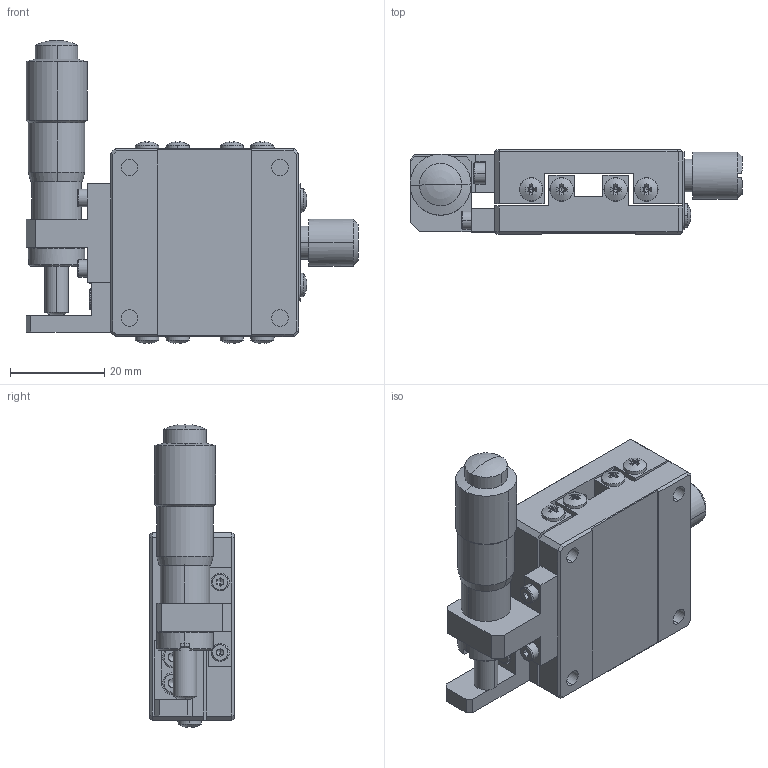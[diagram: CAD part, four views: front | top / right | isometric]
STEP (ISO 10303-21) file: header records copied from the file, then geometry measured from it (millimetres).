
FILE_DESCRIPTION (( 'STEP AP203' ), '1' );
FILE_NAME ('LX40-L.STEP', '2013-07-11T09:53:23', ( 'pengyu' ), ( '' ), 'SwSTEP 2.0', 'SolidWorks 2011', '' );
FILE_SCHEMA (( 'CONFIG_CONTROL_DESIGN' ));
Length unit declared in the file: millimetre
Products named in the file (4): LX40-L; MT13-3-1; L40L-2; L40L-1
Assembly tree (3 placements, depth 2):
  LX40-L
    L40L-2
    L40L-1
    MT13-3-1
Bounding box: 70.6 x 18 x 64.45 mm (x, y, z)
Volume: 32853.1 mm3; surface area: 18193.8 mm2
Topology: 3 solids, 5 shells, 592 faces, 1508 edges, 927 vertices
Faces by surface type: plane 338, cone 119, cylinder 109, bspline 22, torus 4
Entity records: 18528 total; most frequent: CARTESIAN_POINT 4087, DIRECTION 2944, ORIENTED_EDGE 2926, EDGE_CURVE 1463, AXIS2_PLACEMENT_3D 1103, VERTEX_POINT 926, VECTOR 738, LINE 738
